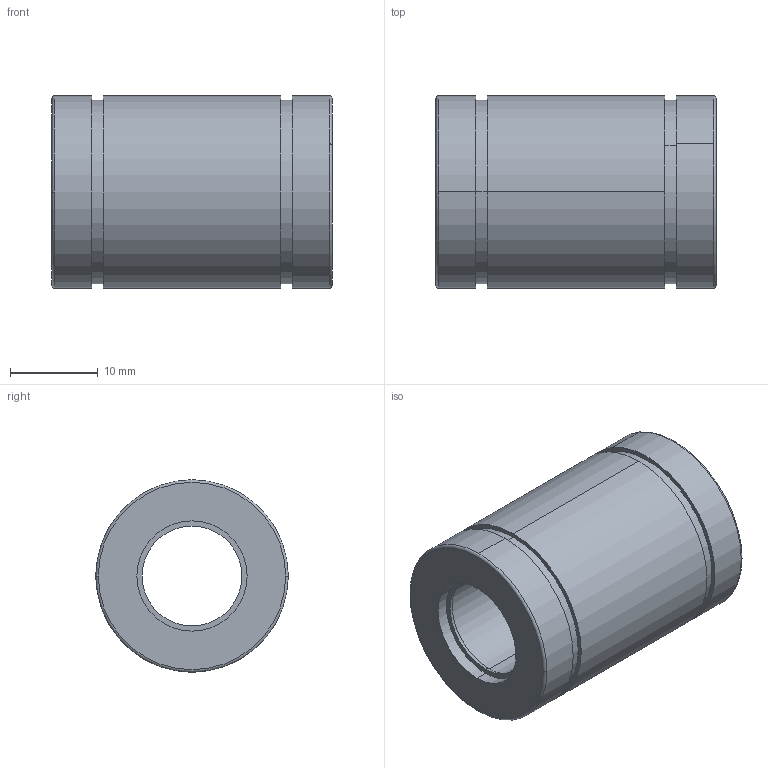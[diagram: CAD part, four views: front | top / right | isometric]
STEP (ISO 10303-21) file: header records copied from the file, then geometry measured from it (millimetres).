
FILE_DESCRIPTION (( 'STEP AP214' ), '1' );
FILE_NAME ('2.7021 Lineaarilaakeri LME12UU.STEP', '2024-06-17T10:14:09', ( '' ), ( '' ), 'SwSTEP 2.0', 'SolidWorks 2024', '' );
FILE_SCHEMA (( 'AUTOMOTIVE_DESIGN' ));
Length unit declared in the file: millimetre
Products named in the file (1): 2.7021 Lineaarilaakeri LME12UU
Bounding box: 32 x 22 x 22 mm (x, y, z)
Volume: 8431 mm3; surface area: 4450 mm2
Topology: 1 solids, 1 shells, 46 faces, 96 edges, 64 vertices
Faces by surface type: cylinder 24, plane 14, torus 4, cone 4
Entity records: 1295 total; most frequent: DIRECTION 258, CARTESIAN_POINT 207, ORIENTED_EDGE 192, AXIS2_PLACEMENT_3D 115, EDGE_CURVE 96, CIRCLE 68, VERTEX_POINT 64, EDGE_LOOP 60
